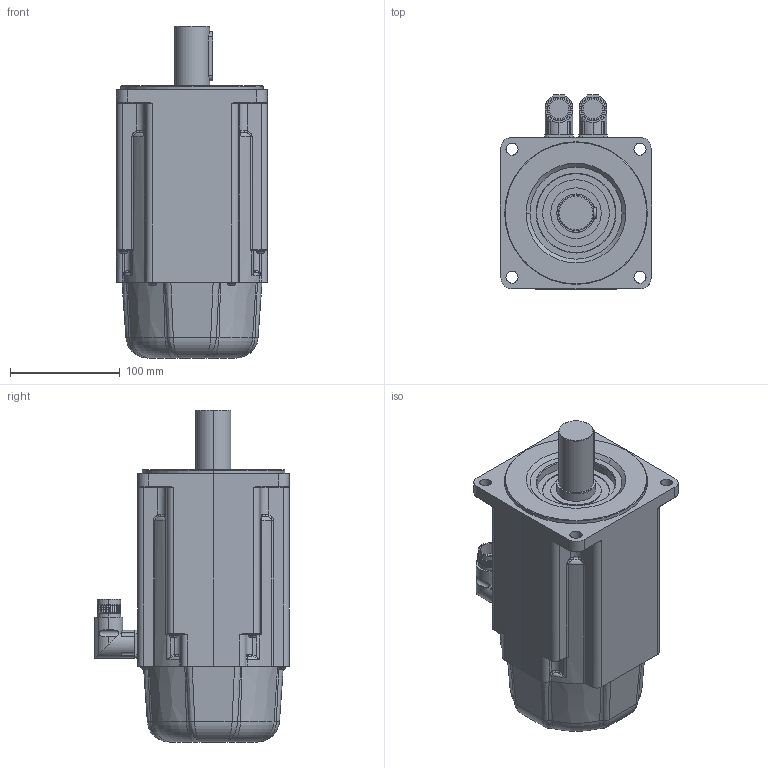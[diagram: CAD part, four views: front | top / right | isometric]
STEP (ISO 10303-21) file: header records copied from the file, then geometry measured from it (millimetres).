
FILE_DESCRIPTION (( 'STEP AP214' ), '1' );
FILE_NAME ('AKC-INT0808417378782.step', '2008-08-08T08:17:49', ( 'sysAdmin' ), ( 'SolidWorks' ), 'SwSTEP 2.0', 'SolidWorks 2008', '' );
FILE_SCHEMA (( 'AUTOMOTIVE_DESIGN' ));
Length unit declared in the file: millimetre
Products named in the file (1): AKC-INT0808417378782
Bounding box: 138 x 177 x 302.7 mm (x, y, z)
Volume: 3804863.9 mm3; surface area: 173049.1 mm2
Topology: 1 solids, 1 shells, 634 faces, 1545 edges, 907 vertices
Faces by surface type: cylinder 209, plane 119, cone 118, bspline 116, torus 72
Entity records: 30425 total; most frequent: CARTESIAN_POINT 9601, ORIENTED_EDGE 3026, DIRECTION 2820, EDGE_CURVE 1513, AXIS2_PLACEMENT_3D 1208, VERTEX_POINT 907, CIRCLE 689, EDGE_LOOP 668
